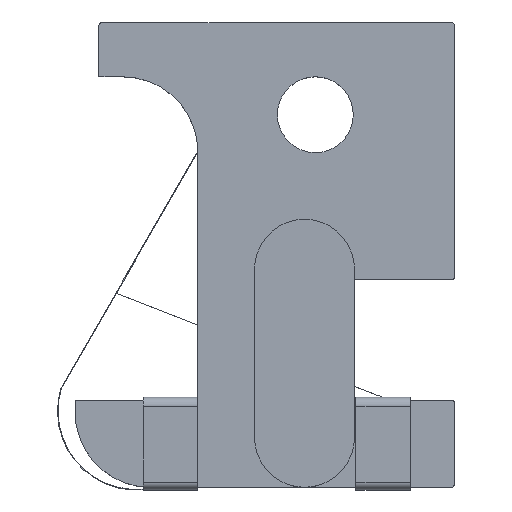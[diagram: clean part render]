
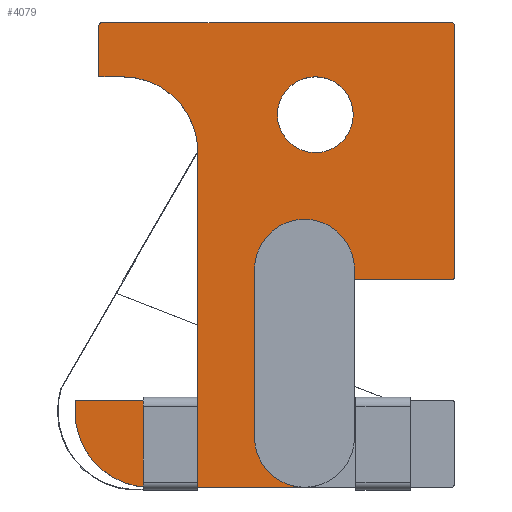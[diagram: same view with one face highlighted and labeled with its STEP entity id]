
A CAD part, top view. The second image highlights one B-rep face of the part: STEP entity #4079.
In plain terms, the highlighted planar face has unit normal (0, 0, 1).
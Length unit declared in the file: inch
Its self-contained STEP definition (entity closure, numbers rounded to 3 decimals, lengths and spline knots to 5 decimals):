
#278=FACE_BOUND('',#764,.T.);
#313=CIRCLE('',#4283,0.001);
#315=CIRCLE('',#4288,0.083);
#319=CIRCLE('',#4293,0.083);
#320=CIRCLE('',#4297,0.005);
#321=CIRCLE('',#4298,0.005);
#322=CIRCLE('',#4299,0.005);
#323=CIRCLE('',#4300,0.125);
#324=CIRCLE('',#4301,0.125);
#325=CIRCLE('',#4302,0.06299);
#527=FACE_OUTER_BOUND('',#763,.T.);
#763=EDGE_LOOP('',(#3574,#3575,#3576,#3577,#3578,#3579,#3580,#3581,#3582,
#3583,#3584,#3585,#3586,#3587,#3588,#3589,#3590,#3591,#3592));
#764=EDGE_LOOP('',(#3593));
#1112=LINE('',#7161,#1509);
#1122=LINE('',#7197,#1519);
#1133=LINE('',#7232,#1530);
#1142=LINE('',#7261,#1539);
#1144=LINE('',#7266,#1541);
#1145=LINE('',#7270,#1542);
#1146=LINE('',#7275,#1543);
#1147=LINE('',#7277,#1544);
#1148=LINE('',#7280,#1545);
#1149=LINE('',#7282,#1546);
#1150=LINE('',#7285,#1547);
#1509=VECTOR('',#4914,0.3937);
#1519=VECTOR('',#4946,0.3937);
#1530=VECTOR('',#4977,0.3937);
#1539=VECTOR('',#5006,0.3937);
#1541=VECTOR('',#5012,0.3937);
#1542=VECTOR('',#5015,0.3937);
#1543=VECTOR('',#5020,0.3937);
#1544=VECTOR('',#5021,0.3937);
#1545=VECTOR('',#5024,0.3937);
#1546=VECTOR('',#5025,0.3937);
#1547=VECTOR('',#5028,0.3937);
#1904=VERTEX_POINT('',#7155);
#1906=VERTEX_POINT('',#7159);
#1920=VERTEX_POINT('',#7194);
#1921=VERTEX_POINT('',#7196);
#1933=VERTEX_POINT('',#7225);
#1934=VERTEX_POINT('',#7227);
#1935=VERTEX_POINT('',#7231);
#1941=VERTEX_POINT('',#7247);
#1943=VERTEX_POINT('',#7253);
#1945=VERTEX_POINT('',#7257);
#1946=VERTEX_POINT('',#7265);
#1947=VERTEX_POINT('',#7267);
#1948=VERTEX_POINT('',#7269);
#1949=VERTEX_POINT('',#7272);
#1950=VERTEX_POINT('',#7274);
#1951=VERTEX_POINT('',#7276);
#1952=VERTEX_POINT('',#7279);
#1953=VERTEX_POINT('',#7281);
#1954=VERTEX_POINT('',#7283);
#1955=VERTEX_POINT('',#7286);
#2455=EDGE_CURVE('',#1904,#1906,#1112,.T.);
#2472=EDGE_CURVE('',#1920,#1921,#1122,.T.);
#2487=EDGE_CURVE('',#1933,#1934,#313,.T.);
#2489=EDGE_CURVE('',#1935,#1934,#1133,.T.);
#2497=EDGE_CURVE('',#1941,#1935,#315,.T.);
#2503=EDGE_CURVE('',#1943,#1945,#319,.T.);
#2504=EDGE_CURVE('',#1945,#1941,#1142,.T.);
#2506=EDGE_CURVE('',#1933,#1946,#1144,.T.);
#2507=EDGE_CURVE('',#1947,#1946,#320,.T.);
#2508=EDGE_CURVE('',#1947,#1948,#1145,.T.);
#2509=EDGE_CURVE('',#1904,#1948,#321,.T.);
#2510=EDGE_CURVE('',#1949,#1906,#322,.T.);
#2511=EDGE_CURVE('',#1949,#1950,#1146,.T.);
#2512=EDGE_CURVE('',#1950,#1951,#1147,.T.);
#2513=EDGE_CURVE('',#1921,#1951,#323,.T.);
#2514=EDGE_CURVE('',#1952,#1920,#1148,.T.);
#2515=EDGE_CURVE('',#1953,#1952,#1149,.T.);
#2516=EDGE_CURVE('',#1954,#1953,#324,.T.);
#2517=EDGE_CURVE('',#1943,#1954,#1150,.T.);
#2518=EDGE_CURVE('',#1955,#1955,#325,.T.);
#3574=ORIENTED_EDGE('',*,*,#2503,.T.);
#3575=ORIENTED_EDGE('',*,*,#2504,.T.);
#3576=ORIENTED_EDGE('',*,*,#2497,.T.);
#3577=ORIENTED_EDGE('',*,*,#2489,.T.);
#3578=ORIENTED_EDGE('',*,*,#2487,.F.);
#3579=ORIENTED_EDGE('',*,*,#2506,.T.);
#3580=ORIENTED_EDGE('',*,*,#2507,.F.);
#3581=ORIENTED_EDGE('',*,*,#2508,.T.);
#3582=ORIENTED_EDGE('',*,*,#2509,.F.);
#3583=ORIENTED_EDGE('',*,*,#2455,.T.);
#3584=ORIENTED_EDGE('',*,*,#2510,.F.);
#3585=ORIENTED_EDGE('',*,*,#2511,.T.);
#3586=ORIENTED_EDGE('',*,*,#2512,.T.);
#3587=ORIENTED_EDGE('',*,*,#2513,.F.);
#3588=ORIENTED_EDGE('',*,*,#2472,.F.);
#3589=ORIENTED_EDGE('',*,*,#2514,.F.);
#3590=ORIENTED_EDGE('',*,*,#2515,.F.);
#3591=ORIENTED_EDGE('',*,*,#2516,.F.);
#3592=ORIENTED_EDGE('',*,*,#2517,.F.);
#3593=ORIENTED_EDGE('',*,*,#2518,.T.);
#3875=PLANE('',#4296);
#4079=ADVANCED_FACE('',(#527,#278),#3875,.T.);
#4283=AXIS2_PLACEMENT_3D('',#7228,#4972,#4973);
#4288=AXIS2_PLACEMENT_3D('',#7248,#4990,#4991);
#4293=AXIS2_PLACEMENT_3D('',#7259,#5002,#5003);
#4296=AXIS2_PLACEMENT_3D('',#7264,#5010,#5011);
#4297=AXIS2_PLACEMENT_3D('',#7268,#5013,#5014);
#4298=AXIS2_PLACEMENT_3D('',#7271,#5016,#5017);
#4299=AXIS2_PLACEMENT_3D('',#7273,#5018,#5019);
#4300=AXIS2_PLACEMENT_3D('',#7278,#5022,#5023);
#4301=AXIS2_PLACEMENT_3D('',#7284,#5026,#5027);
#4302=AXIS2_PLACEMENT_3D('',#7287,#5029,#5030);
#4914=DIRECTION('',(-1.,0.,0.));
#4946=DIRECTION('',(0.,1.,0.));
#4972=DIRECTION('center_axis',(0.,0.,1.));
#4973=DIRECTION('ref_axis',(-0.707,0.707,0.));
#4977=DIRECTION('',(0.,-1.,0.));
#4990=DIRECTION('center_axis',(0.,0.,-1.));
#4991=DIRECTION('ref_axis',(-1.,0.,0.));
#5002=DIRECTION('center_axis',(0.,0.,-1.));
#5003=DIRECTION('ref_axis',(1.,0.,0.));
#5006=DIRECTION('',(0.,1.,0.));
#5010=DIRECTION('center_axis',(0.,0.,1.));
#5011=DIRECTION('ref_axis',(1.,0.,0.));
#5012=DIRECTION('',(1.,0.,0.));
#5013=DIRECTION('center_axis',(0.,0.,-1.));
#5014=DIRECTION('ref_axis',(0.707,-0.707,0.));
#5015=DIRECTION('',(0.,1.,0.));
#5016=DIRECTION('center_axis',(0.,0.,-1.));
#5017=DIRECTION('ref_axis',(0.707,0.707,0.));
#5018=DIRECTION('center_axis',(0.,0.,-1.));
#5019=DIRECTION('ref_axis',(-0.707,0.707,0.));
#5020=DIRECTION('',(0.,-1.,0.));
#5021=DIRECTION('',(1.,0.,0.));
#5022=DIRECTION('center_axis',(0.,0.,1.));
#5023=DIRECTION('ref_axis',(0.707,0.707,0.));
#5024=DIRECTION('',(1.,0.,0.));
#5025=DIRECTION('',(0.,1.,0.));
#5026=DIRECTION('center_axis',(0.,0.,-1.));
#5027=DIRECTION('ref_axis',(-0.707,-0.707,0.));
#5028=DIRECTION('',(-1.,0.,0.));
#5029=DIRECTION('center_axis',(0.,0.,-1.));
#5030=DIRECTION('ref_axis',(-1.,0.,0.));
#7155=CARTESIAN_POINT('',(0.29028,0.2135,0.0515));
#7159=CARTESIAN_POINT('',(-0.29028,0.2135,0.0515));
#7161=CARTESIAN_POINT('',(-0.29528,0.2135,0.0515));
#7194=CARTESIAN_POINT('',(-0.13072,-0.41315,0.0515));
#7196=CARTESIAN_POINT('',(-0.13072,-0.0015,0.0515));
#7197=CARTESIAN_POINT('',(-0.13072,-0.41315,0.0515));
#7225=CARTESIAN_POINT('',(0.13028,-0.2135,0.0515));
#7227=CARTESIAN_POINT('',(0.12928,-0.2145,0.0515));
#7228=CARTESIAN_POINT('Origin',(0.13028,-0.2145,0.0515));
#7231=CARTESIAN_POINT('',(0.12928,-0.19615,0.0515));
#7232=CARTESIAN_POINT('',(0.12928,-0.23758,0.0515));
#7247=CARTESIAN_POINT('',(-0.03672,-0.19615,0.0515));
#7248=CARTESIAN_POINT('Origin',(0.04628,-0.19615,0.0515));
#7253=CARTESIAN_POINT('',(0.04628,-0.55815,0.0515));
#7257=CARTESIAN_POINT('',(-0.03672,-0.47515,0.0515));
#7259=CARTESIAN_POINT('Origin',(0.04628,-0.47515,0.0515));
#7261=CARTESIAN_POINT('',(-0.03672,-0.09808,0.0515));
#7264=CARTESIAN_POINT('Origin',(0.,0.,0.0515));
#7265=CARTESIAN_POINT('',(0.29028,-0.2135,0.0515));
#7266=CARTESIAN_POINT('',(0.29528,-0.2135,0.0515));
#7267=CARTESIAN_POINT('',(0.29528,-0.2085,0.0515));
#7268=CARTESIAN_POINT('Origin',(0.29028,-0.2085,0.0515));
#7269=CARTESIAN_POINT('',(0.29528,0.2085,0.0515));
#7270=CARTESIAN_POINT('',(0.29528,0.2135,0.0515));
#7271=CARTESIAN_POINT('Origin',(0.29028,0.2085,0.0515));
#7272=CARTESIAN_POINT('',(-0.29528,0.2085,0.0515));
#7273=CARTESIAN_POINT('Origin',(-0.29028,0.2085,0.0515));
#7274=CARTESIAN_POINT('',(-0.29528,0.1235,0.0515));
#7275=CARTESIAN_POINT('',(-0.29528,-0.2135,0.0515));
#7276=CARTESIAN_POINT('',(-0.25572,0.1235,0.0515));
#7277=CARTESIAN_POINT('',(-0.14764,0.1235,0.0515));
#7278=CARTESIAN_POINT('Origin',(-0.25572,-0.0015,
0.0515));
#7279=CARTESIAN_POINT('',(-0.33472,-0.41315,0.0515));
#7280=CARTESIAN_POINT('',(-0.33472,-0.41315,0.0515));
#7281=CARTESIAN_POINT('',(-0.33472,-0.43315,0.0515));
#7282=CARTESIAN_POINT('',(-0.33472,-0.55815,0.0515));
#7283=CARTESIAN_POINT('',(-0.20972,-0.55815,0.0515));
#7284=CARTESIAN_POINT('Origin',(-0.20972,-0.43315,0.0515));
#7285=CARTESIAN_POINT('',(0.29528,-0.55815,0.0515));
#7286=CARTESIAN_POINT('',(0.12727,0.0605,0.0515));
#7287=CARTESIAN_POINT('Origin',(0.06428,0.0605,0.0515));
